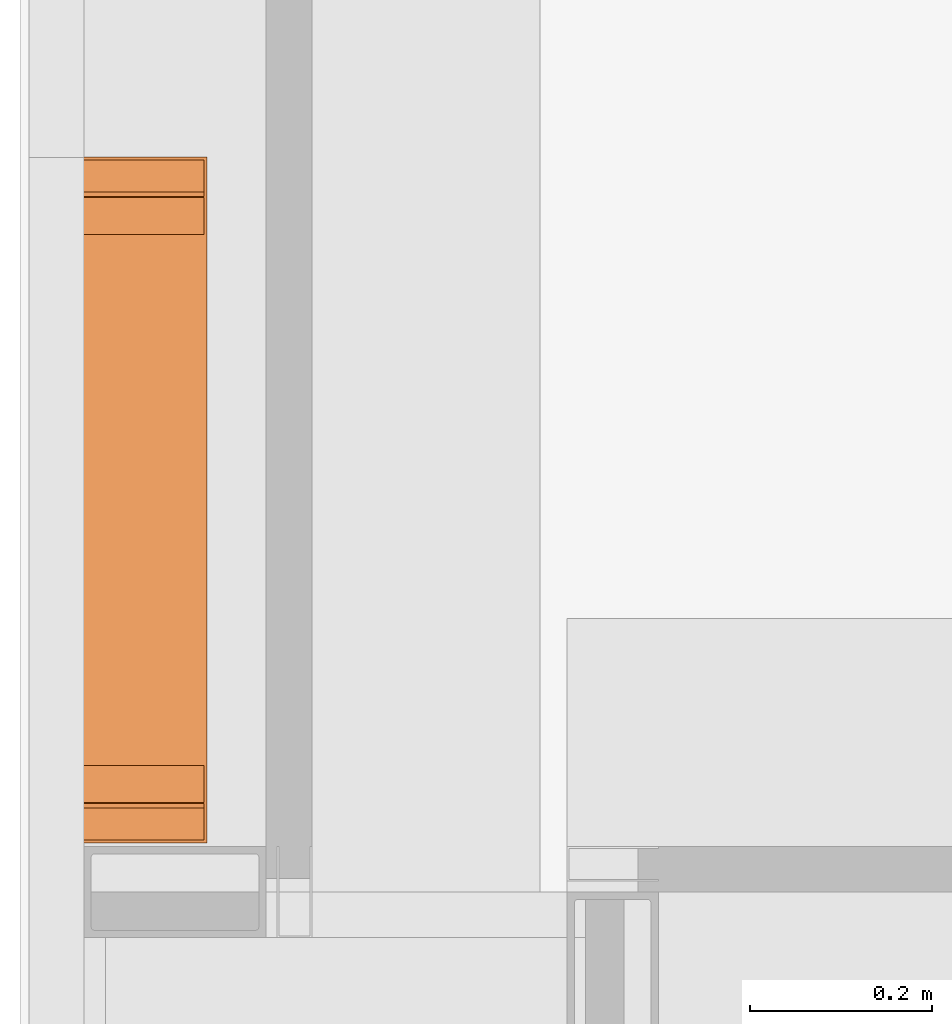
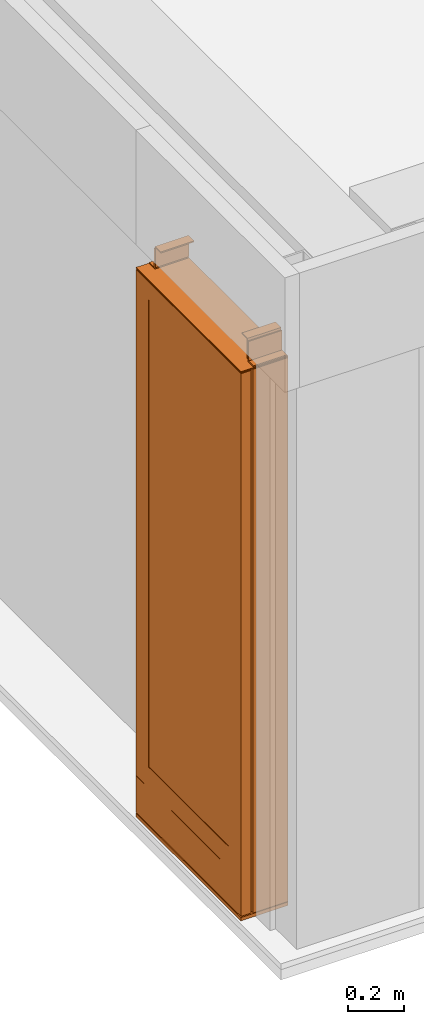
# One storey, part 14 of 14: 1 proxy.
"""IFC2X3 building model written with IfcOpenShell, lengths in millimetres."""

import ifcopenshell
import ifcopenshell.guid

model = None  # the IFC model being written
_history = None  # IfcOwnerHistory: only IFC2X3 demands one
_inside = {}  # id of a spatial element -> (the spatial element, [elements in it])
_under = {}  # id of a project, library or spatial element -> (it, [spatial elements below it])
_declared = {}  # id of a project -> (the project, [libraries it declares])
_typed = {}  # id of a type object -> (the type object, [elements of that type])
_made_of = {}  # id of a material, layer set ... -> (it, [elements and type objects made of it])


def new_model(schema):
    """Start an empty IFC model of exactly this schema.

    Asked for "IFC4X3", IfcOpenShell would pick the latest addendum, in which some entities
    have other attributes; the version numbers below select the first issue.
    IFC2X3 requires an IfcOwnerHistory on every rooted entity: one is made here for all.
    """
    global model, _history
    if schema == "IFC4X3":
        model = ifcopenshell.file(schema_version=(4, 3, 0, 0))
    else:
        model = ifcopenshell.file(schema=schema)
    _inside.clear()
    _under.clear()
    _declared.clear()
    _typed.clear()
    _made_of.clear()
    _history = None
    if model.schema == "IFC2X3":
        org = make("IfcOrganization", Name="unknown")
        user = make(
            "IfcPersonAndOrganization",
            ThePerson=make("IfcPerson", FamilyName="unknown"),
            TheOrganization=org,
        )
        app = make(
            "IfcApplication",
            ApplicationDeveloper=org,
            Version="unknown",
            ApplicationFullName="unknown",
            ApplicationIdentifier="unknown",
        )
        _history = make(
            "IfcOwnerHistory",
            OwningUser=user,
            OwningApplication=app,
            ChangeAction="ADDED",
            CreationDate=0,
        )
    return model


def make(cls, **values):
    """One entity of the class cls with the attributes given. An attribute that is None is left unset."""
    return model.create_entity(
        cls, **{name: value for name, value in values.items() if value is not None}
    )


def entity(cls, *values):
    """Any entity or typed value of the class cls, its attributes in the order of the schema. None: left unset."""
    e = model.create_entity(cls)
    for i, value in enumerate(values):
        if value is not None:
            e[i] = value
    return e


def rooted(cls, **values):
    """An entity with a GlobalId (a new one), such as an element, a storey or a relation."""
    return make(cls, GlobalId=ifcopenshell.guid.new(), OwnerHistory=_history, **values)


def si_unit(unit_type, name, prefix=None):
    """IfcSIUnit, for example si_unit("LENGTHUNIT", "METRE", prefix="MILLI")."""
    return make("IfcSIUnit", UnitType=unit_type, Prefix=prefix, Name=name)


def converted_unit(unit_type, name, factor, base, dimensions=None, offset=None):
    """IfcConversionBasedUnit, such as the inch: factor (a typed value) times the base unit."""
    return make(
        "IfcConversionBasedUnit"
        if offset is None
        else "IfcConversionBasedUnitWithOffset",
        ConversionOffset=offset,
        Dimensions=None
        if dimensions is None
        else entity("IfcDimensionalExponents", *dimensions),
        UnitType=unit_type,
        Name=name,
        ConversionFactor=make(
            "IfcMeasureWithUnit", ValueComponent=factor, UnitComponent=base
        ),
    )


def derived_unit(unit_type, elements):
    """IfcDerivedUnit: a product of units, each with its exponent."""
    return make(
        "IfcDerivedUnit",
        Elements=[
            make("IfcDerivedUnitElement", Unit=unit, Exponent=power)
            for unit, power in elements
        ],
        UnitType=unit_type,
    )


def assignment(units):
    """IfcUnitAssignment: the units of a project."""
    return None if units is None else make("IfcUnitAssignment", Units=units)


def point(xyz):
    """IfcCartesianPoint."""
    return None if xyz is None else make("IfcCartesianPoint", Coordinates=xyz)


def direction(xyz):
    """IfcDirection."""
    return None if xyz is None else make("IfcDirection", DirectionRatios=xyz)


def frame(location, z_axis=None, x_axis=None):
    """IfcAxis2Placement3D, a coordinate frame: its origin and axes. An axis left out is left unset."""
    return make(
        "IfcAxis2Placement3D",
        Location=point(location),
        Axis=direction(z_axis),
        RefDirection=direction(x_axis),
    )


def origin():
    """The frame at (0, 0, 0) with its axes left unset."""
    return frame((0.0, 0.0, 0.0))


def origin_with_axes():
    """The frame at (0, 0, 0) with the z axis (0, 0, 1) and the x axis (1, 0, 0) written out."""
    return frame((0.0, 0.0, 0.0), z_axis=(0.0, 0.0, 1.0), x_axis=(1.0, 0.0, 0.0))


def place(relative_to, where):
    """IfcLocalPlacement: puts the frame where relative to a parent placement (None: the world)."""
    return make(
        "IfcLocalPlacement", PlacementRelTo=relative_to, RelativePlacement=where
    )


def context(
    kind, dimensions, precision=None, world=None, true_north=None, identifier=None
):
    """IfcGeometricRepresentationContext, for example the 3D "Model" context."""
    return make(
        "IfcGeometricRepresentationContext",
        ContextIdentifier=identifier,
        ContextType=kind,
        CoordinateSpaceDimension=dimensions,
        Precision=precision,
        WorldCoordinateSystem=world,
        TrueNorth=true_north,
    )


def subcontext(parent, identifier, kind, view, scale=None):
    """IfcGeometricRepresentationSubContext, for example "Body" below "Model"."""
    return make(
        "IfcGeometricRepresentationSubContext",
        ContextIdentifier=identifier,
        ContextType=kind,
        ParentContext=parent,
        TargetScale=scale,
        TargetView=view,
    )


def project(units=None, contexts=None):
    """IfcProject with its units and contexts."""
    return rooted(
        "IfcProject",
        Name="project",
        RepresentationContexts=contexts,
        UnitsInContext=assignment(units),
    )


def spatial(cls, under=None, at=None, **own):
    """A site, building, storey or space (cls), placed at a placement, below another one or the project."""
    s = rooted(cls, ObjectPlacement=at, **own)
    if under is not None:
        _under.setdefault(under.id(), (under, []))[1].append(s)
    return s


def faces_of(points, faces, orient=None, outer=None):
    """IfcFace entities. A face is a list of loops; a loop is a list of indices into points, from 0.

    orient and outer hold one flag for each loop. By default every Orientation is true, the
    first loop of a face is its IfcFaceOuterBound and the others are IfcFaceBound.
    """
    made = []
    for i, loops in enumerate(faces):
        bounds = []
        for j, loop in enumerate(loops):
            is_outer = j == 0 if outer is None else outer[i][j]
            bounds.append(
                make(
                    "IfcFaceOuterBound" if is_outer else "IfcFaceBound",
                    Bound=make("IfcPolyLoop", Polygon=[points[k] for k in loop]),
                    Orientation=True if orient is None else orient[i][j],
                )
            )
        made.append(make("IfcFace", Bounds=bounds))
    return made


def faceted_brep(points, faces, orient=None, outer=None, voids=None):
    """IfcFacetedBrep: a solid bounded by flat faces; with voids (closed shells), ...WithVoids."""
    shared = [point(p) for p in points]
    hull = make("IfcClosedShell", CfsFaces=faces_of(shared, faces, orient, outer))
    if voids is None:
        return make("IfcFacetedBrep", Outer=hull)
    return make(
        "IfcFacetedBrepWithVoids",
        Outer=hull,
        Voids=[
            make(cls, CfsFaces=faces_of(shared, fs, o, b)) for cls, fs, o, b in voids
        ],
    )


def shape(context_of_items, identifier, shape_type, items):
    """IfcShapeRepresentation: the items that make up one representation, for example the "Body"."""
    return make(
        "IfcShapeRepresentation",
        ContextOfItems=context_of_items,
        RepresentationIdentifier=identifier,
        RepresentationType=shape_type,
        Items=items,
    )


def source(mapping_origin, context_of_items, identifier, shape_type, items):
    """IfcRepresentationMap: a shape defined once, which mapped items show again and again."""
    return make(
        "IfcRepresentationMap",
        MappingOrigin=mapping_origin,
        MappedRepresentation=shape(context_of_items, identifier, shape_type, items),
    )


def transform(
    local_origin,
    x_axis=None,
    y_axis=None,
    z_axis=None,
    scale=None,
    scale2=None,
    scale3=None,
    uniform=True,
):
    """IfcCartesianTransformationOperator3D, or its non-uniform kind. x_axis, y_axis, z_axis: its Axis1, 2, 3."""
    if uniform:
        return make(
            "IfcCartesianTransformationOperator3D",
            Axis1=direction(x_axis),
            Axis2=direction(y_axis),
            LocalOrigin=point(local_origin),
            Scale=scale,
            Axis3=direction(z_axis),
        )
    return make(
        "IfcCartesianTransformationOperator3DnonUniform",
        Axis1=direction(x_axis),
        Axis2=direction(y_axis),
        LocalOrigin=point(local_origin),
        Scale=scale,
        Axis3=direction(z_axis),
        Scale2=scale2,
        Scale3=scale3,
    )


def mapped(mapping_source, mapping_target):
    """IfcMappedItem: shows the shape of a source again, moved by a transform."""
    return make(
        "IfcMappedItem", MappingSource=mapping_source, MappingTarget=mapping_target
    )


def material(Name=None, Category=None):
    """IfcMaterial."""
    return make("IfcMaterial", Name=Name, Category=Category)


def made_of(thing, what):
    """Note that an element or type object is made of a material, layer set ...; save() writes the relation."""
    if what is not None:
        _made_of.setdefault(what.id(), (what, []))[1].append(thing)
    return thing


def type_object(cls, material=None, **own):
    """A type object (cls), such as IfcWallType, which elements share."""
    return made_of(rooted(cls, **own), material)


def element(
    cls,
    number,
    at=None,
    inside=None,
    cuts=None,
    type_object=None,
    material=None,
    context=None,
    identifier="Body",
    shape_type=None,
    held_by="IfcProductDefinitionShape",
    body=None,
    shapes=None,
    **own,
):
    """One element of the class cls, such as IfcWall. Its Tag is "e" and its number.

    at: its placement. inside: the storey or other place that contains it. cuts: it is an
    opening in that element (IfcRelVoidsElement). A single representation is given by context,
    identifier, shape_type and body (its items); several are given by shapes. held_by: the class
    of the entity that holds the representations. save() writes the other relations.
    """
    e = rooted(cls, Tag="e%d" % number, ObjectPlacement=at, **own)
    if body is not None:
        shapes = [shape(context, identifier, shape_type, body)]
    if shapes is not None:
        e.Representation = make(held_by, Representations=shapes)
    if inside is not None:
        _inside.setdefault(inside.id(), (inside, []))[1].append(e)
    if cuts is not None:
        rooted(
            "IfcRelVoidsElement", RelatingBuildingElement=cuts, RelatedOpeningElement=e
        )
    if type_object is not None:
        _typed.setdefault(type_object.id(), (type_object, []))[1].append(e)
    return made_of(e, material)


def aggregate(whole, parts):
    """IfcRelAggregates: a whole, such as a stair, and the parts it consists of."""
    return rooted("IfcRelAggregates", RelatingObject=whole, RelatedObjects=parts)


def save(model, path):
    """Write the relations noted so far, then the file.

    IfcRelAggregates (storeys below a building ...), IfcRelContainedInSpatialStructure (elements
    in a storey), IfcRelDefinesByType, IfcRelAssociatesMaterial and IfcRelDeclares: one each for
    every whole, place, type object, material and project.
    """
    for whole, parts in _under.values():
        aggregate(whole, parts)
    for where, things in _inside.values():
        rooted(
            "IfcRelContainedInSpatialStructure",
            RelatedElements=things,
            RelatingStructure=where,
        )
    for kind, things in _typed.values():
        rooted("IfcRelDefinesByType", RelatedObjects=things, RelatingType=kind)
    for what, things in _made_of.values():
        rooted("IfcRelAssociatesMaterial", RelatedObjects=things, RelatingMaterial=what)
    for by, libraries in _declared.values():
        rooted("IfcRelDeclares", RelatingContext=by, RelatedDefinitions=libraries)
    model.write(path)


model = new_model("IFC2X3")

# Units and contexts
model_context = context("Model", 3, precision=0.01, world=frame((0.0, 4.29681676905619e-09, 0.0)), true_north=direction((4.01073788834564e-13, 1.0)))
plan_context = context("Plan", 3, precision=0.01, world=frame((0.0, 4.29681676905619e-09, 0.0)), true_north=direction((4.01073788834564e-13, 1.0)))
body_context = subcontext(model_context, "Body", "Model", "MODEL_VIEW")
ifc_project = project(units=[converted_unit("PLANEANGLEUNIT", "DEGREE", entity("IfcPositiveLengthMeasure", 0.0174532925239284), si_unit("PLANEANGLEUNIT", "RADIAN"), dimensions=[0, 0, 0, 0, 0, 0, 0]), si_unit("AREAUNIT", "SQUARE_METRE"), si_unit("LENGTHUNIT", "METRE", prefix="MILLI"), si_unit("MASSUNIT", "GRAM", prefix="KILO"), si_unit("POWERUNIT", "WATT"), si_unit("PRESSUREUNIT", "PASCAL"), si_unit("FORCEUNIT", "NEWTON", prefix="KILO"), si_unit("ELECTRICVOLTAGEUNIT", "VOLT"), si_unit("ELECTRICCURRENTUNIT", "AMPERE"), si_unit("THERMODYNAMICTEMPERATUREUNIT", "DEGREE_CELSIUS"), si_unit("TIMEUNIT", "SECOND"), si_unit("VOLUMEUNIT", "CUBIC_METRE"), derived_unit("LINEARVELOCITYUNIT", [(si_unit("LENGTHUNIT", "METRE"), 1), (si_unit("TIMEUNIT", "SECOND"), -1)]), derived_unit("VOLUMETRICFLOWRATEUNIT", [(si_unit("VOLUMEUNIT", "CUBIC_METRE"), 1), (si_unit("TIMEUNIT", "SECOND"), -1)]), derived_unit("THERMALTRANSMITTANCEUNIT", [(si_unit("POWERUNIT", "WATT"), 1), (si_unit("THERMODYNAMICTEMPERATUREUNIT", "KELVIN"), -1), (si_unit("AREAUNIT", "SQUARE_METRE"), -1)]), derived_unit("SOUNDPRESSUREUNIT", [(si_unit("PRESSUREUNIT", "PASCAL"), 1)])], contexts=[model_context, plan_context])

# Site, building, storey
site_placement = place(None, origin_with_axes())
site = spatial("IfcSite", under=ifc_project, at=site_placement, Name="ENGM", CompositionType="ELEMENT")
building_placement = place(site_placement, origin_with_axes())
building = spatial("IfcBuilding", under=site, at=building_placement, Name="TI", CompositionType="ELEMENT")
storey_placement = place(building_placement, frame((0.0, 0.0, 210900.0), z_axis=(0.0, 0.0, 1.0), x_axis=(1.0, 0.0, 0.0)))
storey = spatial("IfcBuildingStorey", under=building, at=storey_placement, Name="Nivå F", CompositionType="ELEMENT", Elevation=210900.0)

# Proxy
ifc_material = material(Name="<Unnamed>")
building_element_proxy_type = type_object("IfcBuildingElementProxyType", Name="A275 - Pylon - venstrehengslet:A275 - Pylon - venstrehengslet", PredefinedType="NOTDEFINED", material=ifc_material)
shared_shape = source(origin(), body_context, "Body", "Brep", [
    faceted_brep([(373.0, 53.5000000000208, 2405.0), (337.634540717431, 53.5000000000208, 2405.0), (337.634540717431, 53.5000000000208, 2490.0), (332.634540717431, 53.5000000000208, 2490.0), (332.634540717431, 53.5000000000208, 2400.0), (373.0, 53.5000000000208, 2400.0), (373.0, 192.0, 2400.0), (373.0, 192.0, 2405.0), (332.634540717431, 192.0, 2400.0), (332.634540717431, 192.0, 2490.0), (337.634540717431, 192.0, 2490.0), (337.634540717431, 192.0, 2405.0)], [[[0, 1, 2, 3, 4, 5]], [[0, 5, 6, 7]], [[5, 4, 8, 6]], [[4, 3, 9, 8]], [[3, 2, 10, 9]], [[2, 1, 11, 10]], [[1, 0, 7, 11]], [[7, 6, 8, 9, 10, 11]]]),
    faceted_brep([(291.26908143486, 192.0, 2495.0), (291.26908143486, 192.0, 2500.0), (331.634540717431, 192.0, 2500.0), (331.634540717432, 192.0, 2410.0), (326.634540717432, 192.0, 2410.0), (326.634540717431, 192.0, 2495.0), (291.26908143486, 53.5000000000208, 2495.0), (291.26908143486, 53.5000000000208, 2500.0), (331.634540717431, 53.5000000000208, 2500.0), (331.634540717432, 53.5000000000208, 2410.0), (326.634540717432, 53.5000000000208, 2410.0), (326.634540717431, 53.5000000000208, 2495.0)], [[[0, 1, 2, 3, 4, 5]], [[6, 7, 1, 0]], [[7, 8, 2, 1]], [[8, 9, 3, 2]], [[9, 10, 4, 3]], [[10, 11, 5, 4]], [[11, 6, 0, 5]], [[6, 11, 10, 9, 8, 7]]]),
    faceted_brep([(-291.26908143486, 53.5000000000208, 2495.0), (-291.26908143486, 53.5000000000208, 2500.0), (-331.634540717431, 53.5000000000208, 2500.0), (-331.634540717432, 53.5000000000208, 2410.0), (-326.634540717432, 53.5000000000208, 2410.0), (-326.634540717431, 53.5000000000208, 2495.0), (-291.26908143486, 192.0, 2495.0), (-291.26908143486, 192.0, 2500.0), (-331.634540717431, 192.0, 2500.0), (-331.634540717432, 192.0, 2410.0), (-326.634540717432, 192.0, 2410.0), (-326.634540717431, 192.0, 2495.0)], [[[0, 1, 2, 3, 4, 5]], [[1, 0, 6, 7]], [[2, 1, 7, 8]], [[3, 2, 8, 9]], [[4, 3, 9, 10]], [[5, 4, 10, 11]], [[0, 5, 11, 6]], [[6, 11, 10, 9, 8, 7]]]),
    faceted_brep([(-373.0, 192.0, 2405.0), (-337.634540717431, 192.0, 2405.0), (-337.634540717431, 192.0, 2490.0), (-332.634540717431, 192.0, 2490.0), (-332.634540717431, 192.0, 2400.0), (-373.0, 192.0, 2400.0), (-373.0, 53.5000000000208, 2400.0), (-373.0, 53.5000000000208, 2405.0), (-332.634540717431, 53.5000000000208, 2400.0), (-332.634540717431, 53.5000000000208, 2490.0), (-337.634540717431, 53.5000000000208, 2490.0), (-337.634540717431, 53.5000000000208, 2405.0)], [[[0, 1, 2, 3, 4, 5]], [[6, 7, 0, 5]], [[8, 6, 5, 4]], [[9, 8, 4, 3]], [[10, 9, 3, 2]], [[11, 10, 2, 1]], [[7, 11, 1, 0]], [[7, 6, 8, 9, 10, 11]]]),
    faceted_brep([(376.0, 41.0, 2390.98999999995), (-376.0, 41.0, 2390.98999999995), (-376.0, 1.0, 2390.98999999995), (376.0, 1.0, 2390.98999999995), (373.0, 38.0, 2390.98999999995), (373.0, 4.0, 2390.98999999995), (-373.0, 4.0, 2390.98999999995), (-373.0, 38.0, 2390.98999999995), (376.0, 41.0, 180.0), (376.0, 1.0, 180.0), (-376.0, 1.0, 180.0), (-376.0, 41.0, 180.0), (373.0, 38.0, 180.0), (-373.0, 38.0, 180.0), (-373.0, 4.0, 180.0), (373.0, 4.0, 180.0), (-286.5, 1.0, 2310.98999999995), (286.500000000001, 1.0, 2310.98999999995), (286.500000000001, 1.0, 270.189999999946), (-286.5, 1.0, 270.189999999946), (286.500000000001, 3.0, 2310.98999999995), (-286.5, 3.0, 2310.98999999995), (-286.5, 3.0, 270.189999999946), (286.500000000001, 3.0, 270.189999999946)], [[[0, 1, 2, 3], [4, 5, 6, 7]], [[8, 9, 10, 11], [12, 13, 14, 15]], [[1, 0, 8, 11]], [[2, 1, 11, 10]], [[3, 2, 10, 9], [16, 17, 18, 19]], [[0, 3, 9, 8]], [[20, 21, 22, 23]], [[21, 20, 17, 16]], [[22, 21, 16, 19]], [[23, 22, 19, 18]], [[20, 23, 18, 17]], [[5, 4, 12, 15]], [[6, 5, 15, 14]], [[7, 6, 14, 13]], [[4, 7, 13, 12]]]),
    faceted_brep([(376.0, 41.0, 180.0), (-376.0, 41.0, 180.0), (-376.0, 0.0, 180.0), (376.0, 0.0, 180.0), (373.0, 38.0, 180.0), (373.0, 3.0, 180.0), (-373.0, 3.0, 180.0), (-373.0, 38.0, 180.0), (376.0, 41.0, 20.0), (376.0, 0.0, 20.0), (-376.0, 0.0, 20.0), (-376.0, 41.0, 20.0), (373.0, 38.0, 20.0), (-373.0, 38.0, 20.0), (-373.0, 3.0, 20.0), (373.0, 3.0, 20.0)], [[[0, 1, 2, 3], [4, 5, 6, 7]], [[8, 9, 10, 11], [12, 13, 14, 15]], [[1, 0, 8, 11]], [[2, 1, 11, 10]], [[3, 2, 10, 9]], [[0, 3, 9, 8]], [[5, 4, 12, 15]], [[6, 5, 15, 14]], [[7, 6, 14, 13]], [[4, 7, 13, 12]]]),
    faceted_brep([(376.0, 195.0, 2400.1), (-376.0, 195.0, 2400.1), (-376.0, 0.0, 2400.1), (376.0, 0.0, 2400.1), (376.0, 195.0, 2396.1), (376.0, 0.0, 2396.1), (-376.0, 0.0, 2396.1), (-376.0, 195.0, 2396.1)], [[[0, 1, 2, 3]], [[4, 5, 6, 7]], [[1, 0, 4, 7]], [[2, 1, 7, 6]], [[3, 2, 6, 5]], [[0, 3, 5, 4]]]),
    faceted_brep([(376.0, 195.0, 15.0), (-376.0, 195.0, 15.0), (-376.0, 0.0, 15.0), (376.0, 0.0, 15.0), (376.0, 195.0, 0.0), (376.0, 0.0, 0.0), (-376.0, 0.0, 0.0), (-376.0, 195.0, 0.0)], [[[0, 1, 2, 3]], [[4, 5, 6, 7]], [[1, 0, 4, 7]], [[2, 1, 7, 6]], [[3, 2, 6, 5]], [[0, 3, 5, 4]]]),
    faceted_brep([(360.0, 50.5000000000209, 2390.98999999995), (-360.0, 50.5000000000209, 2390.98999999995), (-360.0, 41.0, 2390.98999999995), (360.0, 41.0, 2390.98999999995), (360.0, 50.5000000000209, 20.0), (360.0, 41.0, 20.0), (-360.0, 41.0, 20.0), (-360.0, 50.5000000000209, 20.0)], [[[0, 1, 2, 3]], [[4, 5, 6, 7]], [[1, 0, 4, 7]], [[2, 1, 7, 6]], [[3, 2, 6, 5]], [[0, 3, 5, 4]]]),
    faceted_brep([(376.0, 195.0, 2393.8), (-376.0, 195.0, 2393.8), (-376.0, 50.5000000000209, 2393.8), (376.0, 50.5000000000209, 2393.8), (373.0, 192.0, 2393.8), (373.0, 53.5000000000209, 2393.8), (-373.0, 53.5000000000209, 2393.8), (-373.0, 192.0, 2393.8), (376.0, 195.0, 17.3), (376.0, 50.5000000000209, 17.3), (-376.0, 50.5000000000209, 17.3), (-376.0, 195.0, 17.3), (373.0, 192.0, 17.3), (-373.0, 192.0, 17.3), (-373.0, 53.5000000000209, 17.3), (373.0, 53.5000000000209, 17.3)], [[[0, 1, 2, 3], [4, 5, 6, 7]], [[8, 9, 10, 11], [12, 13, 14, 15]], [[1, 0, 8, 11]], [[2, 1, 11, 10]], [[3, 2, 10, 9]], [[0, 3, 9, 8]], [[5, 4, 12, 15]], [[6, 5, 15, 14]], [[7, 6, 14, 13]], [[4, 7, 13, 12]]]),
])
proxy_placement = place(storey_placement, frame((598010.00452683, 689679.999501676, 0.0), z_axis=(0.0, 0.0, 1.0), x_axis=(8.30621561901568e-06, -0.999999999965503, 0.0)))
element("IfcBuildingElementProxy", 1, at=proxy_placement, inside=storey, type_object=building_element_proxy_type, material=ifc_material, Name="A275 - Pylon - venstrehengslet:A275 - Pylon - venstrehengslet", ObjectType="A275 - Pylon - venstrehengslet:A275 - Pylon - venstrehengslet", context=body_context, shape_type="MappedRepresentation", body=[
    mapped(shared_shape, transform((0.0, 0.0, 0.0), scale=1.0)),
])

save(model, "model.ifc")
